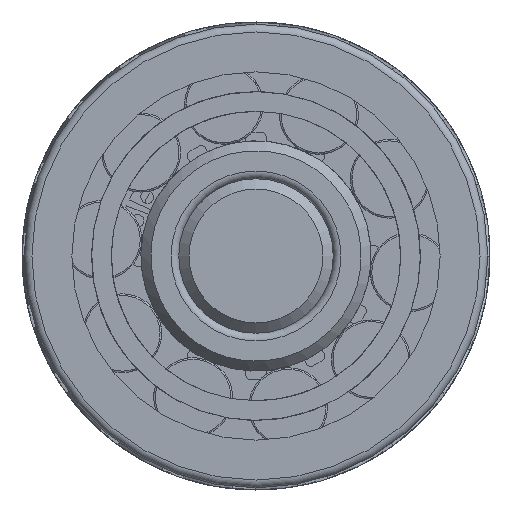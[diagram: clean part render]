
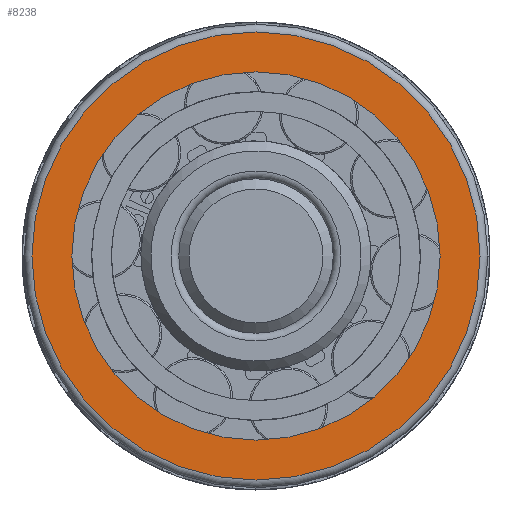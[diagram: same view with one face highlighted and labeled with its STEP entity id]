
A CAD part, left-side view. The second image highlights one B-rep face of the part: STEP entity #8238.
In plain terms, the highlighted planar face has unit normal (-1, 0, 0).
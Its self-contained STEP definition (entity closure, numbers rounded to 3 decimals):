
#223=FACE_BOUND('',#1953,.T.);
#730=CIRCLE('',#9156,43.5);
#731=CIRCLE('',#9158,35.738);
#1050=PLANE('',#9261);
#1455=FACE_OUTER_BOUND('',#1952,.T.);
#1952=EDGE_LOOP('',(#7410));
#1953=EDGE_LOOP('',(#7411));
#3867=VERTEX_POINT('',#57198);
#3868=VERTEX_POINT('',#57202);
#5024=EDGE_CURVE('',#3867,#3867,#730,.T.);
#5025=EDGE_CURVE('',#3868,#3868,#731,.T.);
#7410=ORIENTED_EDGE('',*,*,#5024,.F.);
#7411=ORIENTED_EDGE('',*,*,#5025,.T.);
#8238=ADVANCED_FACE('',(#1455,#223),#1050,.T.);
#9156=AXIS2_PLACEMENT_3D('',#57200,#11296,#11297);
#9158=AXIS2_PLACEMENT_3D('',#57203,#11300,#11301);
#9261=AXIS2_PLACEMENT_3D('',#57308,#11507,#11508);
#11296=DIRECTION('center_axis',(1.,0.,0.));
#11297=DIRECTION('ref_axis',(0.,0.,-1.));
#11300=DIRECTION('center_axis',(1.,0.,0.));
#11301=DIRECTION('ref_axis',(0.,0.,1.));
#11507=DIRECTION('center_axis',(-1.,0.,0.));
#11508=DIRECTION('ref_axis',(0.,0.,1.));
#57198=CARTESIAN_POINT('',(-11.5,0.,43.5));
#57200=CARTESIAN_POINT('Origin',(-11.5,0.,0.));
#57202=CARTESIAN_POINT('',(-11.5,0.,-35.738));
#57203=CARTESIAN_POINT('Origin',(-11.5,0.,0.));
#57308=CARTESIAN_POINT('Origin',(-11.5,-43.501,0.));
